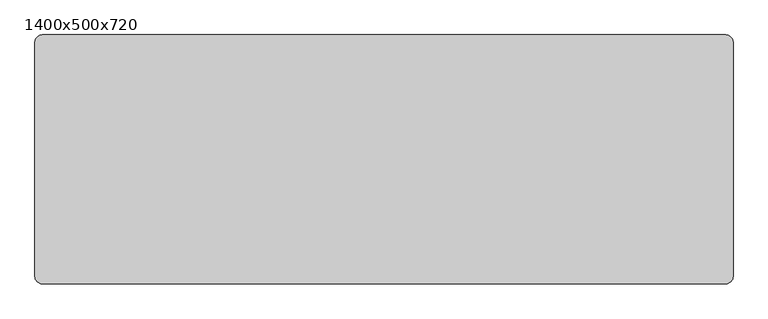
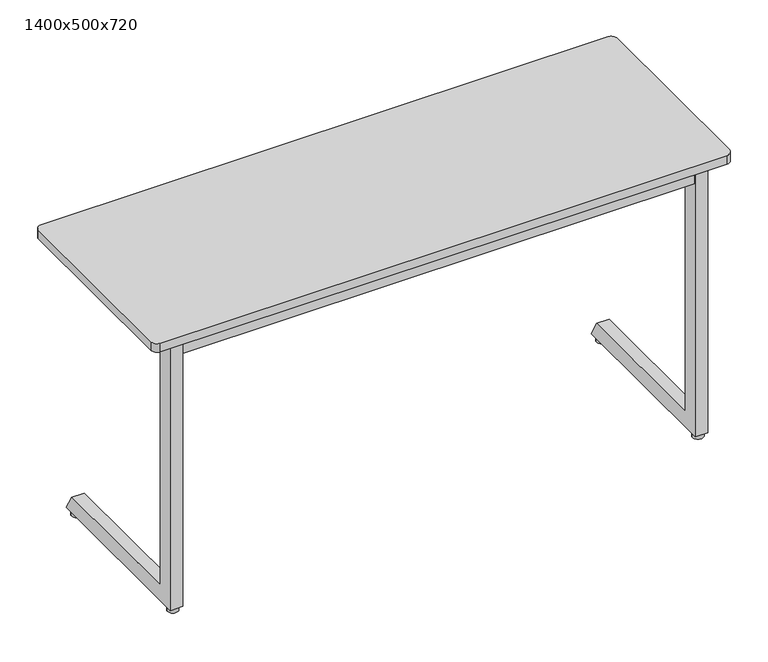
"""IFC4 building model written with IfcOpenShell, lengths in millimetres: furniture geometry, Trivia Light : 1400x500x720."""

from ifc_helpers import new_model, si_unit, point, frame, frame_2d, origin, origin_with_axes, place, context, project, spatial, polyline, circle_curve, trimmed, segment, composite_curve, outline, extrude, source, transform, mapped, element, save


def furniture_1400x500x720_4015ab0b(model_context):
    return source(origin(), model_context, "Body", "SweptSolid", [
        extrude(outline(polyline([(434.5100173, 698.0), (419.9996059, 666.4981092), (54.0, 666.4977978), (54.0, 698.0), (434.5100173, 698.0)])), frame((-564.7535601, 0.0, 0.0), z_axis=(1.0, 0.0, 0.0), x_axis=(0.0, 1.0, 0.0)), (0.0, 0.0, 1.0), 30.0),
        extrude(outline(polyline([(693.7997437, -567.7502136), (670.730957, -567.7502136), (670.730957, -599.8065042), (675.0394353, -611.6439509), (672.2203574, -612.6700113), (667.730957, -600.3354852), (667.730957, -564.7502136), (693.7997437, -564.7502136), (693.7997437, -567.7502136)])), frame((0.0, 215.0, 0.0), z_axis=(0.0, 1.0, 0.0), x_axis=(0.0, 0.0, 1.0)), (0.0, 0.0, 1.0), 30.0),
        extrude(outline(polyline([(693.7997437, 567.7535601), (693.7997437, 564.7535601), (667.730957, 564.7535601), (667.730957, 600.3388316), (672.2203574, 612.6733577), (675.0394353, 611.6472973), (670.730957, 599.8098507), (670.730957, 567.7535601), (693.7997437, 567.7535601)])), frame((0.0, 215.0, 0.0), z_axis=(0.0, 1.0, 0.0), x_axis=(0.0, 0.0, 1.0)), (0.0, 0.0, 1.0), 30.0),
        extrude(outline(composite_curve([segment(trimmed(circle_curve(frame_2d((-635.0, 35.0)), 13.0), [point((-648.0, 35.0))], [point((-622.0, 35.0))], False, "CARTESIAN"), True, "CONTINUOUS"), segment(trimmed(circle_curve(frame_2d((-635.0, 35.0)), 13.0), [point((-622.0, 35.0))], [point((-648.0, 35.0))], False, "CARTESIAN"), True, "CONTINUOUS")], self_intersect=False)), origin_with_axes(), (0.0, 0.0, 1.0), 13.0905762),
        extrude(outline(composite_curve([segment(trimmed(circle_curve(frame_2d((635.0, 35.0)), 13.0), [point((622.0, 35.0))], [point((648.0, 35.0))], False, "CARTESIAN"), True, "CONTINUOUS"), segment(trimmed(circle_curve(frame_2d((635.0, 35.0)), 13.0), [point((648.0, 35.0))], [point((622.0, 35.0))], False, "CARTESIAN"), True, "CONTINUOUS")], self_intersect=False)), origin_with_axes(), (0.0, 0.0, 1.0), 13.0905762),
        extrude(outline(composite_curve([segment(trimmed(circle_curve(frame_2d((635.0, 437.5)), 13.0), [point((622.0, 437.5))], [point((648.0, 437.5))], False, "CARTESIAN"), True, "CONTINUOUS"), segment(trimmed(circle_curve(frame_2d((635.0, 437.5)), 13.0), [point((648.0, 437.5))], [point((622.0, 437.5))], False, "CARTESIAN"), True, "CONTINUOUS")], self_intersect=False)), origin_with_axes(), (0.0, 0.0, 1.0), 13.0905762),
        extrude(outline(composite_curve([segment(trimmed(circle_curve(frame_2d((-635.0, 437.5)), 13.0), [point((-648.0, 437.5))], [point((-622.0, 437.5))], False, "CARTESIAN"), True, "CONTINUOUS"), segment(trimmed(circle_curve(frame_2d((-635.0, 437.5)), 13.0), [point((-622.0, 437.5))], [point((-648.0, 437.5))], False, "CARTESIAN"), True, "CONTINUOUS")], self_intersect=False)), origin_with_axes(), (0.0, 0.0, 1.0), 13.0905762),
        extrude(outline(polyline([(434.5100173, 698.0), (419.9996059, 666.4981092), (54.0, 666.4977978), (54.0, 698.0), (434.5100173, 698.0)])), frame((534.7535601, 0.0, 0.0), z_axis=(1.0, 0.0, 0.0), x_axis=(0.0, 1.0, 0.0)), (0.0, 0.0, 1.0), 30.0),
        extrude(outline(composite_curve([segment(trimmed(circle_curve(frame_2d((685.0, 485.0)), 15.0), [point((685.0, 500.0))], [point((700.0, 485.0))], False, "CARTESIAN"), True, "CONTINUOUS"), segment(polyline([(700.0, 485.0), (700.0, 15.0)]), True, "CONTINUOUS"), segment(trimmed(circle_curve(frame_2d((685.0, 15.0)), 15.0), [point((700.0, 15.0))], [point((685.0, 0.0))], False, "CARTESIAN"), True, "CONTINUOUS"), segment(polyline([(685.0, 0.0), (-685.0, 0.0)]), True, "CONTINUOUS"), segment(trimmed(circle_curve(frame_2d((-685.0, 15.0)), 15.0), [point((-685.0, 0.0))], [point((-700.0, 15.0))], False, "CARTESIAN"), True, "CONTINUOUS"), segment(polyline([(-700.0, 15.0), (-700.0, 485.0)]), True, "CONTINUOUS"), segment(trimmed(circle_curve(frame_2d((-685.0, 485.0)), 15.0), [point((-700.0, 485.0))], [point((-685.0, 500.0))], False, "CARTESIAN"), True, "CONTINUOUS"), segment(polyline([(-685.0, 500.0), (685.0, 500.0)]), True, "CONTINUOUS")], self_intersect=False)), frame((0.0, 0.0, 698.0), z_axis=(0.0, 0.0, 1.0), x_axis=(1.0, 0.0, 0.0)), (0.0, 0.0, 1.0), 22.0),
        extrude(outline(polyline([(619.7534307, 54.0), (619.7534307, 24.0), (-619.7534307, 24.0), (-619.7534307, 54.0), (619.7534307, 54.0)])), frame((0.0, 0.0, 656.0), z_axis=(0.0, 0.0, 1.0), x_axis=(1.0, 0.0, 0.0)), (0.0, 0.0, 1.0), 42.0),
        extrude(outline(polyline([(62.0, 51.5905762), (432.1448423, 51.5905762), (454.8944033, 11.5905762), (20.0, 11.5905762), (20.0, 698.0), (62.0, 698.0), (62.0, 51.5905762)])), frame((-649.7535601, 0.0, 0.0), z_axis=(1.0, 0.0, 0.0), x_axis=(0.0, 1.0, 0.0)), (0.0, 0.0, 1.0), 30.0001294),
        extrude(outline(polyline([(62.0, 51.5905762), (432.1448423, 51.5905762), (454.8944033, 11.5905762), (20.0, 11.5905762), (20.0, 698.0), (62.0, 698.0), (62.0, 51.5905762)])), frame((619.7534307, 0.0, 0.0), z_axis=(1.0, 0.0, 0.0), x_axis=(0.0, 1.0, 0.0)), (0.0, 0.0, 1.0), 30.0001294),
    ])


if __name__ == "__main__":
    model = new_model("IFC4")
    model_context = context("Model", 3, world=origin())
    ifc_project = project(units=[si_unit("LENGTHUNIT", "METRE", prefix="MILLI")], contexts=[model_context])
    site = spatial("IfcSite", under=ifc_project)
    building = spatial("IfcBuilding", under=site)
    placement = place(None, origin())
    furniture_1400x500x720_shape = furniture_1400x500x720_4015ab0b(model_context)
    element("IfcFurniture", 1, ObjectType="Trivia Light : 1400x500x720", at=placement, inside=building, context=model_context, shape_type="MappedRepresentation", body=[
        mapped(furniture_1400x500x720_shape, transform((0.0, 0.0, 0.0), x_axis=(1.0, 0.0, 0.0), y_axis=(0.0, 1.0, 0.0), z_axis=(0.0, 0.0, 1.0))),
    ])
    save(model, "model.ifc")
